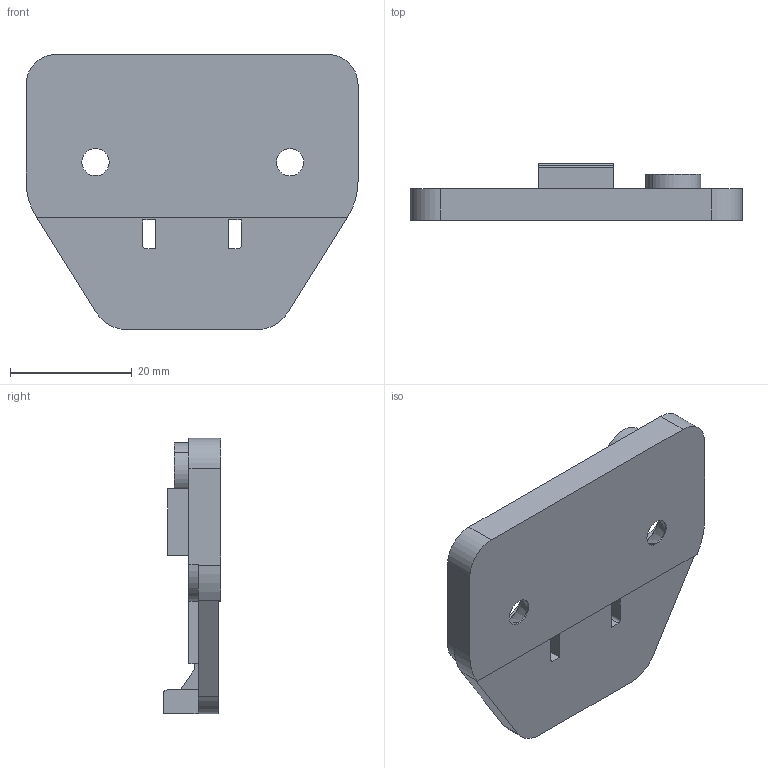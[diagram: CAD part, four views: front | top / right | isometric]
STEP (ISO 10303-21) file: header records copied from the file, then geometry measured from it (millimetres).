
FILE_DESCRIPTION (( 'STEP AP203' ), '1' );
FILE_NAME ('89T00TQ-DTC3D.STEP', '2021-04-13T01:34:26', ( '' ), ( '' ), 'SwSTEP 2.0', 'SolidWorks 2018', '' );
FILE_SCHEMA (( 'CONFIG_CONTROL_DESIGN' ));
Length unit declared in the file: millimetre
Products named in the file (1): 89T00TQ-DTC3D
Bounding box: 54.6 x 9.4 x 45.3 mm (x, y, z)
Volume: 10457.5 mm3; surface area: 5829.9 mm2
Topology: 1 solids, 1 shells, 86 faces, 240 edges, 158 vertices
Faces by surface type: plane 52, cylinder 26, torus 4, cone 4
Entity records: 2863 total; most frequent: DIRECTION 488, CARTESIAN_POINT 485, ORIENTED_EDGE 480, EDGE_CURVE 240, VECTOR 166, LINE 166, AXIS2_PLACEMENT_3D 161, VERTEX_POINT 158
